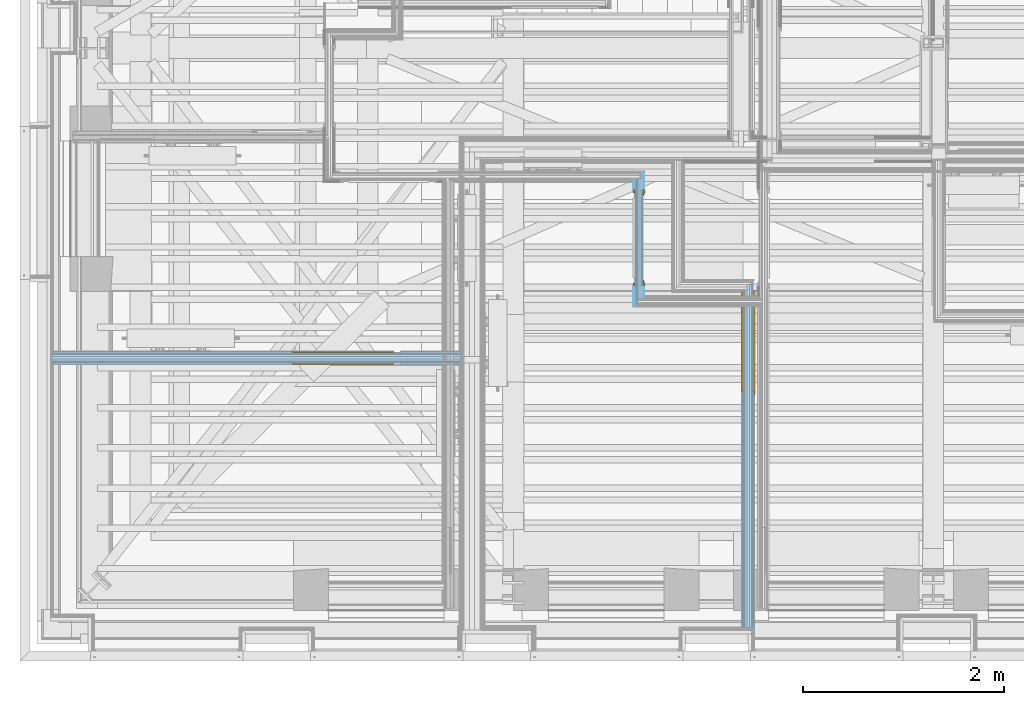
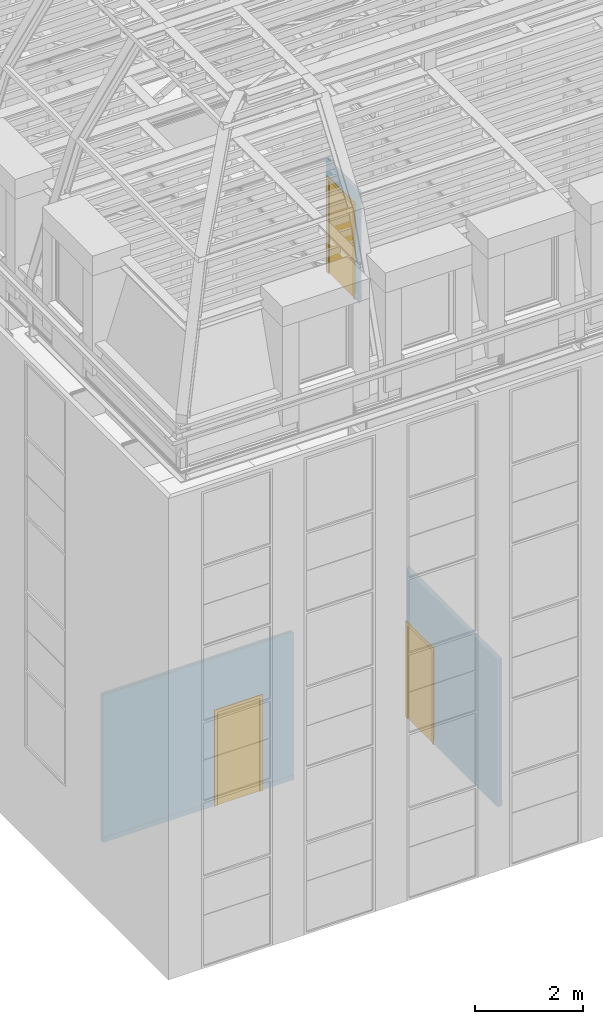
# One storey, part 100 of 183: 3 doors, 4 openings, 3 elements without a shape of their own, plus 21 elements that do not belong to this part.
"""IFC2X3 building model written with IfcOpenShell, lengths in metres."""

from ifc_helpers import new_model, entity, si_unit, converted_unit, derived_unit, money_unit, direction, frame, frame_2d, origin_with_axes, place, context, subcontext, project, spatial, polyline, rectangle, outline, extrude, faceted_brep, material, type_object, element, fill, aggregate, save


model = new_model("IFC2X3")

# Units and contexts
model_context = context("Model", 3, precision=1e-05, world=origin_with_axes(), true_north=direction((0.0, 1.0)))
body_context = subcontext(model_context, "Body", "Model", "MODEL_VIEW", scale=1.0)
ifc_project = project(units=[si_unit("LENGTHUNIT", "METRE"), si_unit("AREAUNIT", "SQUARE_METRE"), si_unit("VOLUMEUNIT", "CUBIC_METRE"), si_unit("ABSORBEDDOSEUNIT", "GRAY"), si_unit("AMOUNTOFSUBSTANCEUNIT", "MOLE"), si_unit("DOSEEQUIVALENTUNIT", "SIEVERT"), si_unit("ELECTRICCAPACITANCEUNIT", "FARAD"), si_unit("ELECTRICCHARGEUNIT", "COULOMB"), si_unit("ELECTRICCONDUCTANCEUNIT", "SIEMENS"), si_unit("ELECTRICCURRENTUNIT", "AMPERE"), si_unit("ELECTRICRESISTANCEUNIT", "OHM"), si_unit("ELECTRICVOLTAGEUNIT", "VOLT"), si_unit("ENERGYUNIT", "JOULE"), si_unit("FORCEUNIT", "NEWTON"), si_unit("FREQUENCYUNIT", "HERTZ"), si_unit("ILLUMINANCEUNIT", "LUX"), si_unit("INDUCTANCEUNIT", "HENRY"), si_unit("LUMINOUSFLUXUNIT", "LUMEN"), si_unit("LUMINOUSINTENSITYUNIT", "CANDELA"), si_unit("MAGNETICFLUXDENSITYUNIT", "TESLA"), si_unit("MAGNETICFLUXUNIT", "WEBER"), si_unit("MASSUNIT", "GRAM"), converted_unit("PLANEANGLEUNIT", "degree", entity("IfcReal", 0.0174532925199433), si_unit("PLANEANGLEUNIT", "RADIAN"), dimensions=[0, 0, 0, 0, 0, 0, 0]), si_unit("POWERUNIT", "WATT"), si_unit("PRESSUREUNIT", "PASCAL"), si_unit("RADIOACTIVITYUNIT", "BECQUEREL"), si_unit("SOLIDANGLEUNIT", "STERADIAN"), si_unit("THERMODYNAMICTEMPERATUREUNIT", "KELVIN"), si_unit("TIMEUNIT", "SECOND"), derived_unit("ACCELERATIONUNIT", [(si_unit("LENGTHUNIT", "METRE"), 1), (si_unit("TIMEUNIT", "SECOND"), -2)]), derived_unit("ANGULARVELOCITYUNIT", [(converted_unit("PLANEANGLEUNIT", "degree", entity("IfcReal", 0.0174532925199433), si_unit("PLANEANGLEUNIT", "RADIAN"), dimensions=[0, 0, 0, 0, 0, 0, 0]), 1), (si_unit("TIMEUNIT", "SECOND"), -1)]), derived_unit("CURVATUREUNIT", [(converted_unit("PLANEANGLEUNIT", "degree", entity("IfcReal", 0.0174532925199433), si_unit("PLANEANGLEUNIT", "RADIAN"), dimensions=[0, 0, 0, 0, 0, 0, 0]), 1), (si_unit("LENGTHUNIT", "METRE"), -1)]), derived_unit("DYNAMICVISCOSITYUNIT", [(si_unit("PRESSUREUNIT", "PASCAL"), 1), (si_unit("TIMEUNIT", "SECOND"), 1)]), derived_unit("HEATFLUXDENSITYUNIT", [(si_unit("POWERUNIT", "WATT"), 1), (si_unit("LENGTHUNIT", "METRE"), -2)]), derived_unit("HEATINGVALUEUNIT", [(si_unit("ENERGYUNIT", "JOULE"), 1), (si_unit("MASSUNIT", "GRAM"), -1)]), derived_unit("INTEGERCOUNTRATEUNIT", [(si_unit("TIMEUNIT", "SECOND"), -1)]), derived_unit("IONCONCENTRATIONUNIT", [(si_unit("MASSUNIT", "GRAM"), 1), (si_unit("VOLUMEUNIT", "CUBIC_METRE"), -1)]), derived_unit("ISOTHERMALMOISTURECAPACITYUNIT", [(si_unit("VOLUMEUNIT", "CUBIC_METRE"), 1), (si_unit("MASSUNIT", "GRAM"), -1)]), derived_unit("KINEMATICVISCOSITYUNIT", [(si_unit("AREAUNIT", "SQUARE_METRE"), 1), (si_unit("TIMEUNIT", "SECOND"), -1)]), derived_unit("LINEARFORCEUNIT", [(si_unit("FORCEUNIT", "NEWTON"), 1), (si_unit("LENGTHUNIT", "METRE"), -1)]), derived_unit("LINEARMOMENTUNIT", [(si_unit("FORCEUNIT", "NEWTON"), 1), (si_unit("LENGTHUNIT", "METRE"), -1)]), derived_unit("LINEARSTIFFNESSUNIT", [(si_unit("FORCEUNIT", "NEWTON"), 1), (si_unit("LENGTHUNIT", "METRE"), -1)]), derived_unit("LINEARVELOCITYUNIT", [(si_unit("LENGTHUNIT", "METRE"), 1), (si_unit("TIMEUNIT", "SECOND"), -1)]), derived_unit("LUMINOUSINTENSITYDISTRIBUTIONUNIT", [(si_unit("LUMINOUSINTENSITYUNIT", "CANDELA"), 1), (si_unit("LUMINOUSFLUXUNIT", "LUMEN"), -1)]), derived_unit("MASSDENSITYUNIT", [(si_unit("MASSUNIT", "GRAM"), 1), (si_unit("VOLUMEUNIT", "CUBIC_METRE"), -1)]), derived_unit("MASSFLOWRATEUNIT", [(si_unit("MASSUNIT", "GRAM"), 1), (si_unit("TIMEUNIT", "SECOND"), -1)]), derived_unit("MASSPERLENGTHUNIT", [(si_unit("MASSUNIT", "GRAM"), 1), (si_unit("LENGTHUNIT", "METRE"), -1)]), derived_unit("MODULUSOFELASTICITYUNIT", [(si_unit("FORCEUNIT", "NEWTON"), 1), (si_unit("AREAUNIT", "SQUARE_METRE"), -1)]), derived_unit("MODULUSOFLINEARSUBGRADEREACTIONUNIT", [(si_unit("FORCEUNIT", "NEWTON"), 1), (si_unit("LENGTHUNIT", "METRE"), -2)]), derived_unit("MODULUSOFROTATIONALSUBGRADEREACTIONUNIT", [(si_unit("FORCEUNIT", "NEWTON"), 1), (si_unit("LENGTHUNIT", "METRE"), 1)]), derived_unit("MODULUSOFSUBGRADEREACTIONUNIT", [(si_unit("FORCEUNIT", "NEWTON"), 1), (si_unit("VOLUMEUNIT", "CUBIC_METRE"), -1)]), derived_unit("MOISTUREDIFFUSIVITYUNIT", [(si_unit("VOLUMEUNIT", "CUBIC_METRE"), 1), (si_unit("TIMEUNIT", "SECOND"), -1)]), derived_unit("MOLECULARWEIGHTUNIT", [(si_unit("MASSUNIT", "GRAM"), 1), (si_unit("AMOUNTOFSUBSTANCEUNIT", "MOLE"), -1)]), derived_unit("PLANARFORCEUNIT", [(si_unit("FORCEUNIT", "NEWTON"), 1), (si_unit("LENGTHUNIT", "METRE"), -2)]), derived_unit("ROTATIONALFREQUENCYUNIT", [(si_unit("TIMEUNIT", "SECOND"), -1)]), derived_unit("ROTATIONALMASSUNIT", [(si_unit("MASSUNIT", "GRAM"), 1), (si_unit("LENGTHUNIT", "METRE"), 2)]), derived_unit("ROTATIONALSTIFFNESSUNIT", [(si_unit("FORCEUNIT", "NEWTON"), 1), (si_unit("LENGTHUNIT", "METRE"), 1), (converted_unit("PLANEANGLEUNIT", "degree", entity("IfcReal", 0.0174532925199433), si_unit("PLANEANGLEUNIT", "RADIAN"), dimensions=[0, 0, 0, 0, 0, 0, 0]), -1)]), derived_unit("SECTIONAREAINTEGRALUNIT", [(si_unit("LENGTHUNIT", "METRE"), 5)]), derived_unit("SECTIONMODULUSUNIT", [(si_unit("LENGTHUNIT", "METRE"), 3)]), derived_unit("SHEARMODULUSUNIT", [(si_unit("FORCEUNIT", "NEWTON"), 1), (si_unit("AREAUNIT", "SQUARE_METRE"), -1)]), derived_unit("SOUNDPOWERUNIT", [(si_unit("ENERGYUNIT", "JOULE"), 1), (si_unit("TIMEUNIT", "SECOND"), -1)]), derived_unit("SPECIFICHEATCAPACITYUNIT", [(si_unit("FORCEUNIT", "NEWTON"), 1), (si_unit("MASSUNIT", "GRAM"), -1), (si_unit("THERMODYNAMICTEMPERATUREUNIT", "KELVIN"), -1)]), derived_unit("TEMPERATUREGRADIENTUNIT", [(si_unit("THERMODYNAMICTEMPERATUREUNIT", "KELVIN"), 1), (si_unit("LENGTHUNIT", "METRE"), -1)]), derived_unit("THERMALADMITTANCEUNIT", [(si_unit("POWERUNIT", "WATT"), 1), (si_unit("AREAUNIT", "SQUARE_METRE"), -1), (si_unit("THERMODYNAMICTEMPERATUREUNIT", "KELVIN"), -1)]), derived_unit("THERMALCONDUCTANCEUNIT", [(si_unit("POWERUNIT", "WATT"), 1), (si_unit("LENGTHUNIT", "METRE"), -1), (si_unit("THERMODYNAMICTEMPERATUREUNIT", "KELVIN"), -1)]), derived_unit("THERMALEXPANSIONCOEFFICIENTUNIT", [(si_unit("THERMODYNAMICTEMPERATUREUNIT", "KELVIN"), -1)]), derived_unit("THERMALRESISTANCEUNIT", [(si_unit("AREAUNIT", "SQUARE_METRE"), 1), (si_unit("POWERUNIT", "WATT"), -1)]), derived_unit("THERMALTRANSMITTANCEUNIT", [(si_unit("POWERUNIT", "WATT"), 1), (si_unit("AREAUNIT", "SQUARE_METRE"), -1), (si_unit("THERMODYNAMICTEMPERATUREUNIT", "KELVIN"), -1)]), derived_unit("TORQUEUNIT", [(si_unit("FORCEUNIT", "NEWTON"), 1), (si_unit("LENGTHUNIT", "METRE"), 1)]), derived_unit("VAPORPERMEABILITYUNIT", [(si_unit("MASSUNIT", "GRAM"), 1), (si_unit("TIMEUNIT", "SECOND"), -1)]), derived_unit("VOLUMETRICFLOWRATEUNIT", [(si_unit("VOLUMEUNIT", "CUBIC_METRE"), 1), (si_unit("TIMEUNIT", "SECOND"), -1)]), derived_unit("WARPINGCONSTANTUNIT", [(si_unit("LENGTHUNIT", "METRE"), 6)]), derived_unit("WARPINGMOMENTUNIT", [(si_unit("FORCEUNIT", "NEWTON"), 1), (si_unit("LENGTHUNIT", "METRE"), 2)]), money_unit("GBP")], contexts=[model_context])

# Site, building, storey, space
site_placement = place(None, origin_with_axes())
site = spatial("IfcSite", under=ifc_project, at=site_placement, Name="Site", CompositionType="ELEMENT")
building_placement = place(site_placement, origin_with_axes())
building = spatial("IfcBuilding", under=site, at=building_placement, Name="Building01", CompositionType="ELEMENT")
storey_placement = place(building_placement, frame((0.0, 0.0, 5.15), z_axis=(0.0, 0.0, 1.0), x_axis=(1.0, 0.0, 0.0)))
storey = spatial("IfcBuildingStorey", under=building, at=storey_placement, Name="1F", CompositionType="ELEMENT", Elevation=5.15)
space_1_placement = place(storey_placement, frame((12.175, 4.189428, 9.81), z_axis=(0.0, 0.0, 1.0), x_axis=(0.0, 1.0, 0.0)))
space_1 = spatial("IfcSpace", under=storey, at=space_1_placement, Name="25", CompositionType="ELEMENT", InteriorOrExteriorSpace="NOTDEFINED")

# Door
ifc_material_1 = material(Name="A_BSUK_Doors")
door_style_1 = type_object("IfcDoorStyle", Name="A-Doors-SingleFlush", ConstructionType="USERDEFINED", OperationType="SINGLE_SWING_RIGHT", ParameterTakesPrecedence=False, Sizeable=False)
wall_3_placement = place(storey_placement, frame((6.147098, 4.806939, 9.78), z_axis=(0.0, 0.0, 1.0), x_axis=(0.0, -1.0, 0.0)))
opening_4_placement = place(wall_3_placement, frame((0.105, -0.042, 0.0), z_axis=(0.0, 0.0, 1.0), x_axis=(1.0, 0.0, 0.0)))
door_1_placement = place(opening_4_placement, frame((0.942, 0.015, 0.0), z_axis=(0.0, 0.0, 1.0), x_axis=(-1.0, 0.0, 0.0)))
door_1 = element("IfcDoor", 1, at=door_1_placement, inside=space_1, type_object=door_style_1, material=ifc_material_1, Name="4.21", ObjectType="A-Doors-SingleFlush", OverallHeight=2.14200000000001, OverallWidth=0.984000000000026, context=body_context, shape_type="Brep", body=[
    faceted_brep([(0.9, -0.099, 0.0), (0.969, -0.099, 0.0), (0.969, -0.099, 2.169), (-0.069, -0.099, 2.169), (-0.069, -0.099, 0.0), (0.0, -0.099, 0.0), (0.0, -0.099, 2.1), (0.9, -0.099, 2.1), (-0.069, -0.08, 0.0), (-0.069, -0.08, 2.169), (0.969, -0.08, 2.169), (0.969, -0.08, 0.0), (0.9, 0.019, 0.0), (0.969, 0.019, 0.0), (0.969, 0.0, 0.0), (0.942, 0.0, 0.0), (0.942, -0.08, 0.0), (0.9, 0.019, 2.1), (0.0, 0.019, 2.1), (0.0, 0.019, 0.0), (-0.069, 0.019, 0.0), (-0.069, 0.019, 2.169), (0.969, 0.019, 2.169), (0.969, 0.0, 2.169), (0.942, -0.08, 2.142), (0.942, 0.0, 2.142), (-0.042, -0.08, 2.142), (-0.042, 0.0, 2.142), (-0.042, -0.08, 0.0), (-0.042, 0.0, 0.0), (-0.069, 0.0, 2.169), (-0.069, 0.0, 0.0)], [[[0, 1, 2, 3, 4, 5, 6, 7]], [[8, 4, 3, 9]], [[10, 2, 1, 11]], [[9, 3, 2, 10]], [[12, 13, 14, 15, 16, 11, 1, 0]], [[7, 17, 12, 0]], [[6, 18, 17, 7]], [[18, 19, 20, 21, 22, 13, 12, 17]], [[5, 19, 18, 6]], [[13, 22, 23, 14]], [[24, 16, 15, 25]], [[26, 24, 25, 27]], [[11, 16, 24, 26, 28, 8, 9, 10]], [[27, 29, 28, 26]], [[25, 15, 14, 23, 30, 31, 29, 27]], [[5, 4, 8, 28, 29, 31, 20, 19]], [[30, 21, 20, 31]], [[23, 22, 21, 30]]]),
    faceted_brep([(0.0, -0.09, 2.1), (0.0, -0.04, 2.1), (0.0, -0.04, 0.0), (0.0, -0.09, 0.0), (0.875, -0.09, 0.0), (0.9, -0.09, 0.0), (0.9, -0.09, 2.1), (0.025, -0.09, 0.0), (0.025, -0.09, 2.075), (0.875, -0.09, 2.075), (0.875, -0.04, 0.0), (0.9, -0.04, 0.0), (0.9, -0.04, 2.1), (0.025, -0.04, 2.075), (0.025, -0.04, 0.0), (0.875, -0.04, 2.075)], [[[0, 1, 2, 3]], [[4, 5, 6, 0, 3, 7, 8, 9]], [[10, 11, 5, 4]], [[6, 12, 1, 0]], [[5, 11, 12, 6]], [[13, 14, 2, 1, 12, 11, 10, 15]], [[7, 14, 13, 8]], [[7, 3, 2, 14]], [[9, 15, 10, 4]], [[8, 13, 15, 9]]]),
    faceted_brep([(0.9, -0.04, 0.0), (0.9, 0.0, 0.0), (0.9, 0.0, 2.1), (0.9, -0.04, 2.1), (0.0, -0.04, 2.1), (0.0, 0.0, 2.1), (0.0, 0.0, 0.0), (0.0, -0.04, 0.0)], [[[0, 1, 2, 3]], [[4, 5, 6, 7]], [[7, 6, 1, 0]], [[3, 4, 7, 0]], [[3, 2, 5, 4]], [[1, 6, 5, 2]]]),
])

# Space
space_2_placement = place(storey_placement, frame((0.318, 8.21067, 0.017975), z_axis=(0.0, 0.0, 1.0), x_axis=(0.0, -1.0, 0.0)))
space_2 = spatial("IfcSpace", under=storey, at=space_2_placement, Name="06", CompositionType="ELEMENT", InteriorOrExteriorSpace="NOTDEFINED")

# Door
door_style_2 = type_object("IfcDoorStyle", Name="A-Doors-SingleFlush", ConstructionType="USERDEFINED", OperationType="SINGLE_SWING_LEFT", ParameterTakesPrecedence=False, Sizeable=False)
wall_2_placement = place(storey_placement, frame((0.318, 3.030286, 0.0), z_axis=(0.0, 0.0, 1.0), x_axis=(1.0, 0.0, 0.0)))
opening_3_placement = place(wall_2_placement, frame((2.391, -0.075, -0.03), z_axis=(0.0, 0.0, 1.0), x_axis=(1.0, 0.0, 0.0)))
door_2_placement = place(opening_3_placement, frame((0.942, 0.015, 0.03), z_axis=(0.0, 0.0, 1.0), x_axis=(-1.0, 0.0, 0.0)))
door_2 = element("IfcDoor", 2, at=door_2_placement, inside=space_2, type_object=door_style_2, material=ifc_material_1, Name="1.19", ObjectType="A-Doors-SingleFlush", OverallHeight=2.17200000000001, OverallWidth=1.08300000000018, context=body_context, shape_type="Brep", body=[
    faceted_brep([(0.0, -0.114, 2.1), (0.9, -0.114, 2.1), (0.9, -0.114, 0.0), (0.969, -0.114, 0.0), (0.969, -0.114, 2.169), (-0.069, -0.114, 2.169), (-0.069, -0.114, 0.0), (0.0, -0.114, 0.0), (0.969, -0.095, 2.169), (0.969, -0.095, 0.0), (-0.069, -0.095, 0.0), (-0.069, -0.095, 2.169), (-0.042, -0.095, 0.0), (-0.042, 0.0, 0.0), (-0.069, 0.0, 0.0), (-0.069, 0.019, 0.0), (0.0, 0.019, 0.0), (0.0, 0.019, 2.1), (0.9, 0.019, 2.1), (-0.069, 0.019, 2.169), (0.969, 0.019, 2.169), (0.969, 0.019, 0.0), (0.9, 0.019, 0.0), (-0.069, 0.0, 2.169), (-0.042, 0.0, 2.142), (-0.042, -0.095, 2.142), (0.942, 0.0, 2.142), (0.942, -0.095, 2.142), (0.942, -0.095, 0.0), (0.942, 0.0, 0.0), (0.969, 0.0, 0.0), (0.969, 0.0, 2.169)], [[[0, 1, 2, 3, 4, 5, 6, 7]], [[8, 4, 3, 9]], [[10, 6, 5, 11]], [[11, 5, 4, 8]], [[7, 6, 10, 12, 13, 14, 15, 16]], [[7, 16, 17, 0]], [[0, 17, 18, 1]], [[17, 16, 15, 19, 20, 21, 22, 18]], [[1, 18, 22, 2]], [[14, 23, 19, 15]], [[24, 13, 12, 25]], [[26, 24, 25, 27]], [[11, 8, 9, 28, 27, 25, 12, 10]], [[27, 28, 29, 26]], [[26, 29, 30, 31, 23, 14, 13, 24]], [[22, 21, 30, 29, 28, 9, 3, 2]], [[30, 21, 20, 31]], [[31, 20, 19, 23]]]),
    faceted_brep([(0.9, -0.09, 0.0), (0.9, -0.04, 0.0), (0.9, -0.04, 2.1), (0.9, -0.09, 2.1), (0.025, -0.09, 2.075), (0.875, -0.09, 2.075), (0.875, -0.09, 0.0), (0.0, -0.09, 2.1), (0.0, -0.09, 0.0), (0.025, -0.09, 0.0), (0.0, -0.04, 0.0), (0.025, -0.04, 0.0), (0.0, -0.04, 2.1), (0.025, -0.04, 2.075), (0.875, -0.04, 0.0), (0.875, -0.04, 2.075)], [[[0, 1, 2, 3]], [[4, 5, 6, 0, 3, 7, 8, 9]], [[9, 8, 10, 11]], [[3, 2, 12, 7]], [[7, 12, 10, 8]], [[13, 11, 10, 12, 2, 1, 14, 15]], [[5, 15, 14, 6]], [[14, 1, 0, 6]], [[9, 11, 13, 4]], [[4, 13, 15, 5]]]),
    faceted_brep([(0.0, -0.04, 2.1), (0.0, 0.0, 2.1), (0.0, 0.0, 0.0), (0.0, -0.04, 0.0), (0.9, -0.04, 0.0), (0.9, 0.0, 0.0), (0.9, 0.0, 2.1), (0.9, -0.04, 2.1)], [[[0, 1, 2, 3]], [[4, 5, 6, 7]], [[3, 2, 5, 4]], [[3, 4, 7, 0]], [[7, 6, 1, 0]], [[1, 6, 5, 2]]]),
])

# Space
space_3_placement = place(storey_placement, frame((12.15, 4.98, 0.017975), z_axis=(0.0, 0.0, 1.0), x_axis=(-1.0, 0.0, 0.0)))
space_3 = spatial("IfcSpace", under=storey, at=space_3_placement, Name="05", CompositionType="ELEMENT", InteriorOrExteriorSpace="NOTDEFINED")

# Door
door_style_3 = type_object("IfcDoorStyle", Name="A-Doors-SingleFlush", ConstructionType="USERDEFINED", OperationType="SINGLE_SWING_RIGHT", ParameterTakesPrecedence=False, Sizeable=False)
wall_1_placement = place(storey_placement, frame((7.26, 3.745, 0.0), z_axis=(0.0, 0.0, 1.0), x_axis=(0.0, -1.0, 0.0)))
opening_1_placement = place(wall_1_placement, frame((0.129, -0.075, -0.015), z_axis=(0.0, 0.0, 1.0), x_axis=(1.0, 0.0, 0.0)))
door_3_placement = place(opening_1_placement, frame((0.9, 0.015, 0.015), z_axis=(0.0, 0.0, 1.0), x_axis=(-1.0, 0.0, 0.0)))
door_3 = element("IfcDoor", 3, at=door_3_placement, inside=space_3, type_object=door_style_3, material=ifc_material_1, Name="1.16", ObjectType="A-Doors-SingleFlush", OverallHeight=2.157, OverallWidth=1.56178056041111, context=body_context, shape_type="Brep", body=[
    faceted_brep([(0.9, -0.114, 0.0), (0.969, -0.114, 0.0), (0.969, -0.114, 2.169), (-0.069, -0.114, 2.169), (-0.069, -0.114, 0.0), (0.0, -0.114, 0.0), (0.0, -0.114, 2.1), (0.9, -0.114, 2.1), (-0.069, -0.095, 0.0), (-0.069, -0.095, 2.169), (0.969, -0.095, 2.169), (0.969, -0.095, 0.0), (0.9, 0.019, 0.0), (0.969, 0.019, 0.0), (0.969, 0.0, 0.0), (0.942, 0.0, 0.0), (0.942, -0.095, 0.0), (0.9, 0.019, 2.1), (0.0, 0.019, 2.1), (0.0, 0.019, 0.0), (-0.069, 0.019, 0.0), (-0.069, 0.019, 2.169), (0.969, 0.019, 2.169), (0.969, 0.0, 2.169), (0.942, -0.095, 2.142), (0.942, 0.0, 2.142), (-0.042, -0.095, 2.142), (-0.042, 0.0, 2.142), (-0.042, -0.095, 0.0), (-0.042, 0.0, 0.0), (-0.069, 0.0, 2.169), (-0.069, 0.0, 0.0)], [[[0, 1, 2, 3, 4, 5, 6, 7]], [[8, 4, 3, 9]], [[10, 2, 1, 11]], [[9, 3, 2, 10]], [[12, 13, 14, 15, 16, 11, 1, 0]], [[7, 17, 12, 0]], [[6, 18, 17, 7]], [[18, 19, 20, 21, 22, 13, 12, 17]], [[5, 19, 18, 6]], [[13, 22, 23, 14]], [[24, 16, 15, 25]], [[26, 24, 25, 27]], [[11, 16, 24, 26, 28, 8, 9, 10]], [[27, 29, 28, 26]], [[25, 15, 14, 23, 30, 31, 29, 27]], [[5, 4, 8, 28, 29, 31, 20, 19]], [[30, 21, 20, 31]], [[23, 22, 21, 30]]]),
    faceted_brep([(0.0, -0.09, 2.1), (0.0, -0.04, 2.1), (0.0, -0.04, 0.0), (0.0, -0.09, 0.0), (0.875, -0.09, 0.0), (0.9, -0.09, 0.0), (0.9, -0.09, 2.1), (0.025, -0.09, 0.0), (0.025, -0.09, 2.075), (0.875, -0.09, 2.075), (0.875, -0.04, 0.0), (0.9, -0.04, 0.0), (0.9, -0.04, 2.1), (0.025, -0.04, 2.075), (0.025, -0.04, 0.0), (0.875, -0.04, 2.075)], [[[0, 1, 2, 3]], [[4, 5, 6, 0, 3, 7, 8, 9]], [[10, 11, 5, 4]], [[6, 12, 1, 0]], [[5, 11, 12, 6]], [[13, 14, 2, 1, 12, 11, 10, 15]], [[7, 14, 13, 8]], [[7, 3, 2, 14]], [[9, 15, 10, 4]], [[8, 13, 15, 9]]]),
    faceted_brep([(0.9, -0.04, 0.0), (0.9, 0.0, 0.0), (0.9, 0.0, 2.1), (0.9, -0.04, 2.1), (0.0, -0.04, 2.1), (0.0, 0.0, 2.1), (0.0, 0.0, 0.0), (0.0, -0.04, 0.0)], [[[0, 1, 2, 3]], [[4, 5, 6, 7]], [[7, 6, 1, 0]], [[3, 4, 7, 0]], [[3, 2, 5, 4]], [[1, 6, 5, 2]]]),
])

# Wall, opening
wall_type_1 = type_object("IfcWallType", Name="SHE_A-Walls_Type05a_Partition_95mm_tall", PredefinedType="NOTDEFINED")
wall_1 = element("IfcWall", 4, at=wall_1_placement, inside=storey, type_object=wall_type_1, Name="5A", ObjectType="SHE_A-Walls_Type05a_Partition_95mm_tall")
opening_1 = element("IfcOpeningElement", 5, at=opening_1_placement, cuts=wall_1, Name="Opening", ObjectType="Opening", context=body_context, shape_type="SweptSolid", body=[
    extrude(outline(polyline([(0.0, 2.142), (-0.9, 2.142), (-0.9, 0.015), (-0.464219, 0.015), (-0.464219, 0.0), (0.0, 0.0), (0.0, 2.142)])), frame((0.0, 0.0, 0.0), z_axis=(0.0, 1.0, 0.0), x_axis=(-1.0, 0.0, 0.0)), (0.0, 0.0, 1.0), 0.125),
    extrude(outline(polyline([(0.619781, 2.157), (-0.942, 2.157), (-0.942, 0.015), (-0.464219, 0.015), (-0.464219, 0.0), (0.619781, 0.0), (0.619781, 2.157)])), frame((0.0, 0.015, 0.0), z_axis=(0.0, 1.0, 0.0), x_axis=(-1.0, 0.0, 0.0)), (0.0, 0.0, 1.0), 0.012),
    extrude(outline(polyline([(0.619781, 2.157), (-0.942, 2.157), (-0.942, 0.015), (-0.464219, 0.015), (-0.464219, 0.0), (0.619781, 0.0), (0.619781, 2.157)])), frame((0.0, 0.027, 0.0), z_axis=(0.0, 1.0, 0.0), x_axis=(-1.0, 0.0, 0.0)), (0.0, 0.0, 1.0), 0.023),
    extrude(outline(polyline([(0.619781, 2.157), (-0.942, 2.157), (-0.942, 0.015), (-0.464219, 0.015), (-0.464219, 0.0), (0.619781, 0.0), (0.619781, 2.157)])), frame((0.0, 0.05, 0.0), z_axis=(0.0, 1.0, 0.0), x_axis=(-1.0, 0.0, 0.0)), (0.0, 0.0, 1.0), 0.025),
    extrude(outline(polyline([(0.619781, 2.157), (-0.942, 2.157), (-0.942, 0.015), (-0.464219, 0.015), (-0.464219, 0.0), (0.619781, 0.0), (0.619781, 2.157)])), frame((0.0, 0.075, 0.0), z_axis=(0.0, 1.0, 0.0), x_axis=(-1.0, 0.0, 0.0)), (0.0, 0.0, 1.0), 0.023),
    extrude(rectangle(XDim=0.9, YDim=2.142, at=frame_2d((-0.45, 1.071), x_axis=(-1.0, 0.0))), frame((0.0, 0.098, 0.0), z_axis=(0.0, 1.0, 0.0), x_axis=(-1.0, 0.0, 0.0)), (0.0, 0.0, 1.0), 0.012),
    extrude(outline(polyline([(0.042, 2.142), (0.042, 2.157), (-0.942, 2.157), (-0.942, 0.015), (-0.464219, 0.015), (-0.464219, 0.0), (0.619781, 0.0), (0.619781, 2.142), (0.042, 2.142)])), frame((0.0, 0.0, 0.0), z_axis=(0.0, 1.0, 0.0), x_axis=(-1.0, 0.0, 0.0)), (0.0, 0.0, 1.0), 0.098),
    extrude(outline(polyline([(0.042, 2.142), (0.042, 2.157), (-0.942, 2.157), (-0.942, 0.015), (-0.464219, 0.015), (-0.464219, 0.0), (0.619781, 0.0), (0.619781, 2.142), (0.042, 2.142)])), frame((0.0, 0.11, 0.0), z_axis=(0.0, 1.0, 0.0), x_axis=(-1.0, 0.0, 0.0)), (0.0, 0.0, 1.0), 0.015),
])

fill(opening_1, door_3)

# Opening
opening_2_placement = place(wall_1_placement, frame((0.087, 0.023, 0.0), z_axis=(0.0, 0.0, 1.0), x_axis=(1.0, 0.0, 0.0)))
element("IfcOpeningElement", 6, at=opening_2_placement, cuts=wall_1, Name="Opening", ObjectType="Recess", context=body_context, shape_type="SweptSolid", body=[
    extrude(rectangle(XDim=2.142, YDim=0.984, at=frame_2d((-0.492, 1.071), x_axis=(0.0, 1.0))), frame((0.0, 0.0, 0.0), z_axis=(0.0, 1.0, 0.0), x_axis=(-1.0, 0.0, 0.0)), (0.0, 0.0, 1.0), 0.012),
])

# Building element part
ifc_material_2 = material(Name="A_BSUK_Walls_Timber")
placement_1 = place(wall_1_placement, origin_with_axes())
building_element_part_1 = element("IfcBuildingElementPart", 7, at=placement_1, material=ifc_material_2, Name="1", context=body_context, shape_type="SweptSolid", body=[
    extrude(outline(polyline([(3.427, -0.06), (0.06, -0.06), (0.075, -0.075), (3.427, -0.075), (3.427, -0.06)])), frame((0.0, 0.0, 0.015), z_axis=(0.0, 0.0, 1.0), x_axis=(1.0, 0.0, 0.0)), (0.0, 0.0, 1.0), 0.1),
])

ifc_material_3 = material(Name="A_BSUK_WallInternal_Finishes_Plasterboard")
building_element_part_2 = element("IfcBuildingElementPart", 8, at=placement_1, material=ifc_material_3, Name="2", context=body_context, shape_type="SweptSolid", body=[
    extrude(outline(polyline([(3.427, -0.048), (0.048, -0.048), (0.06, -0.06), (3.427, -0.06), (3.427, -0.048)])), origin_with_axes(), (0.0, 0.0, 1.0), 3.32),
])

ifc_material_4 = material(Name="Air Cavity")
building_element_part_3 = element("IfcBuildingElementPart", 9, at=placement_1, material=ifc_material_4, Name="3", context=body_context, shape_type="SweptSolid", body=[
    extrude(outline(polyline([(3.427, -0.025), (0.025, -0.025), (0.048, -0.048), (3.427, -0.048), (3.427, -0.025)])), origin_with_axes(), (0.0, 0.0, 1.0), 3.32),
])

ifc_material_5 = material(Name="A_BSUK_Insulation")
building_element_part_4 = element("IfcBuildingElementPart", 10, at=placement_1, material=ifc_material_5, Name="4", context=body_context, shape_type="SweptSolid", body=[
    extrude(rectangle(XDim=3.427, YDim=0.025, at=frame_2d((1.7135, -0.0125), x_axis=(-1.0, 0.0))), origin_with_axes(), (0.0, 0.0, 1.0), 3.32),
])

building_element_part_5 = element("IfcBuildingElementPart", 11, at=placement_1, material=ifc_material_4, Name="5", context=body_context, shape_type="SweptSolid", body=[
    extrude(rectangle(XDim=3.427, YDim=0.023, at=frame_2d((1.7135, 0.0115), x_axis=(-1.0, 0.0))), origin_with_axes(), (0.0, 0.0, 1.0), 3.32),
])

building_element_part_6 = element("IfcBuildingElementPart", 12, at=placement_1, material=ifc_material_3, Name="6", context=body_context, shape_type="SweptSolid", body=[
    extrude(outline(polyline([(3.427, 0.035), (-0.035, 0.035), (-0.023, 0.023), (3.427, 0.023), (3.427, 0.035)])), origin_with_axes(), (0.0, 0.0, 1.0), 3.32),
])

building_element_part_7 = element("IfcBuildingElementPart", 13, at=placement_1, material=ifc_material_2, Name="7", context=body_context, shape_type="SweptSolid", body=[
    extrude(outline(polyline([(3.412, 0.05), (-0.05, 0.05), (-0.035, 0.035), (3.412, 0.035), (3.412, 0.05)])), frame((0.0, 0.0, 0.015), z_axis=(0.0, 0.0, 1.0), x_axis=(1.0, 0.0, 0.0)), (0.0, 0.0, 1.0), 0.1),
])

aggregate(wall_1, [building_element_part_1, building_element_part_2, building_element_part_3, building_element_part_4, building_element_part_5, building_element_part_6, building_element_part_7])

# Wall, opening
wall_2 = element("IfcWall", 14, at=wall_2_placement, inside=storey, type_object=wall_type_1, Name="5A", ObjectType="SHE_A-Walls_Type05a_Partition_95mm_tall")
opening_3 = element("IfcOpeningElement", 15, at=opening_3_placement, cuts=wall_2, Name="Opening", ObjectType="Opening", context=body_context, shape_type="SweptSolid", body=[
    extrude(outline(polyline([(-0.984, 0.0), (-0.099, 0.0), (-0.099, 0.03), (0.0, 0.03), (0.0, 2.172), (-0.984, 2.172), (-0.984, 0.0)])), frame((0.0, 0.0, 0.0), z_axis=(0.0, 1.0, 0.0), x_axis=(-1.0, 0.0, 0.0)), (0.0, 0.0, 1.0), 0.125),
    extrude(rectangle(XDim=0.984, YDim=2.172, at=frame_2d((-0.492, 1.086), x_axis=(1.0, 0.0))), frame((0.0, 0.015, 0.0), z_axis=(0.0, 1.0, 0.0), x_axis=(-1.0, 0.0, 0.0)), (0.0, 0.0, 1.0), 0.012),
    extrude(outline(polyline([(-0.099, 0.03), (0.0, 0.03), (0.0, 2.172), (-0.984, 2.172), (-0.984, 2.142), (-1.083, 2.142), (-1.083, 0.0), (-0.099, 0.0), (-0.099, 0.03)])), frame((0.0, 0.0, 0.0), z_axis=(0.0, 1.0, 0.0), x_axis=(-1.0, 0.0, 0.0)), (0.0, 0.0, 1.0), 0.015),
    extrude(rectangle(XDim=0.984, YDim=2.172, at=frame_2d((-0.492, 1.086), x_axis=(1.0, 0.0))), frame((0.0, 0.027, 0.0), z_axis=(0.0, 1.0, 0.0), x_axis=(-1.0, 0.0, 0.0)), (0.0, 0.0, 1.0), 0.023),
    extrude(outline(polyline([(-0.984, 0.0), (-0.042, 0.0), (-0.042, 0.03), (0.0, 0.03), (0.0, 2.172), (-0.984, 2.172), (-0.984, 0.0)])), frame((0.0, 0.05, 0.0), z_axis=(0.0, 1.0, 0.0), x_axis=(-1.0, 0.0, 0.0)), (0.0, 0.0, 1.0), 0.025),
    extrude(outline(polyline([(-0.984, 0.0), (-0.042, 0.0), (-0.042, 0.03), (0.0, 0.03), (0.0, 2.172), (-0.984, 2.172), (-0.984, 0.0)])), frame((0.0, 0.075, 0.0), z_axis=(0.0, 1.0, 0.0), x_axis=(-1.0, 0.0, 0.0)), (0.0, 0.0, 1.0), 0.023),
    extrude(outline(polyline([(-0.984, 0.0), (-0.042, 0.0), (-0.042, 0.03), (0.0, 0.03), (0.0, 2.172), (-0.984, 2.172), (-0.984, 0.0)])), frame((0.0, 0.098, 0.0), z_axis=(0.0, 1.0, 0.0), x_axis=(-1.0, 0.0, 0.0)), (0.0, 0.0, 1.0), 0.012),
    extrude(outline(polyline([(-0.099, 0.03), (0.0, 0.03), (0.0, 2.172), (-0.984, 2.172), (-0.984, 2.142), (-1.083, 2.142), (-1.083, 0.0), (-0.099, 0.0), (-0.099, 0.03)])), frame((0.0, 0.11, 0.0), z_axis=(0.0, 1.0, 0.0), x_axis=(-1.0, 0.0, 0.0)), (0.0, 0.0, 1.0), 0.015),
])

fill(opening_3, door_2)

# Building element part
placement_2 = place(wall_2_placement, origin_with_axes())
building_element_part_8 = element("IfcBuildingElementPart", 16, at=placement_2, material=ifc_material_2, Name="1", context=body_context, shape_type="SweptSolid", body=[
    extrude(rectangle(XDim=4.037, YDim=0.015, at=frame_2d((2.0335, -0.0675), x_axis=(-1.0, 0.0))), frame((0.0, 0.0, 0.015), z_axis=(0.0, 0.0, 1.0), x_axis=(1.0, 0.0, 0.0)), (0.0, 0.0, 1.0), 0.1),
])

building_element_part_9 = element("IfcBuildingElementPart", 17, at=placement_2, material=ifc_material_3, Name="2", context=body_context, shape_type="SweptSolid", body=[
    extrude(rectangle(XDim=4.067, YDim=0.012, at=frame_2d((2.0335, -0.054), x_axis=(-1.0, 0.0))), origin_with_axes(), (0.0, 0.0, 1.0), 3.32),
])

building_element_part_10 = element("IfcBuildingElementPart", 18, at=placement_2, material=ifc_material_4, Name="3", context=body_context, shape_type="SweptSolid", body=[
    extrude(rectangle(XDim=4.067, YDim=0.023, at=frame_2d((2.0335, -0.0365), x_axis=(-1.0, 0.0))), origin_with_axes(), (0.0, 0.0, 1.0), 3.32),
])

building_element_part_11 = element("IfcBuildingElementPart", 19, at=placement_2, material=ifc_material_5, Name="4", context=body_context, shape_type="SweptSolid", body=[
    extrude(rectangle(XDim=4.067, YDim=0.025, at=frame_2d((2.0335, -0.0125), x_axis=(-1.0, 0.0))), origin_with_axes(), (0.0, 0.0, 1.0), 3.32),
])

building_element_part_12 = element("IfcBuildingElementPart", 20, at=placement_2, material=ifc_material_4, Name="5", context=body_context, shape_type="SweptSolid", body=[
    extrude(rectangle(XDim=4.067, YDim=0.023, at=frame_2d((2.0335, 0.0115), x_axis=(-1.0, 0.0))), origin_with_axes(), (0.0, 0.0, 1.0), 3.32),
])

building_element_part_13 = element("IfcBuildingElementPart", 21, at=placement_2, material=ifc_material_3, Name="6", context=body_context, shape_type="SweptSolid", body=[
    extrude(rectangle(XDim=4.067, YDim=0.012, at=frame_2d((2.0335, 0.029), x_axis=(-1.0, 0.0))), origin_with_axes(), (0.0, 0.0, 1.0), 3.32),
])

building_element_part_14 = element("IfcBuildingElementPart", 22, at=placement_2, material=ifc_material_2, Name="7", context=body_context, shape_type="SweptSolid", body=[
    extrude(rectangle(XDim=4.052, YDim=0.015, at=frame_2d((2.041, 0.0425), x_axis=(-1.0, 0.0))), frame((0.0, 0.0, 0.015), z_axis=(0.0, 0.0, 1.0), x_axis=(1.0, 0.0, 0.0)), (0.0, 0.0, 1.0), 0.1),
])

aggregate(wall_2, [building_element_part_8, building_element_part_9, building_element_part_10, building_element_part_11, building_element_part_12, building_element_part_13, building_element_part_14])

# Wall, opening
wall_type_2 = type_object("IfcWallType", Name="SHE_A-Walls_Type05b_Partition_80mm", PredefinedType="NOTDEFINED")
wall_3 = element("IfcWall", 23, at=wall_3_placement, inside=storey, type_object=wall_type_2, Name="5B", ObjectType="SHE_A-Walls_Type05b_Partition_80mm")
opening_4 = element("IfcOpeningElement", 24, at=opening_4_placement, cuts=wall_3, Name="Opening", ObjectType="Opening", context=body_context, shape_type="SweptSolid", body=[
    extrude(rectangle(XDim=2.142, YDim=0.984, at=frame_2d((-0.492, 1.071), x_axis=(0.0, 1.0))), frame((0.0, 0.0, 0.0), z_axis=(0.0, 1.0, 0.0), x_axis=(-1.0, 0.0, 0.0)), (0.0, 0.0, 1.0), 0.11),
])

fill(opening_4, door_1)

# Building element part
placement_3 = place(wall_3_placement, origin_with_axes())
building_element_part_15 = element("IfcBuildingElementPart", 25, at=placement_3, material=ifc_material_2, Name="1", context=body_context, shape_type="SweptSolid", body=[
    extrude(outline(polyline([(1.267, -0.027), (0.027, -0.027), (0.042, -0.042), (1.282, -0.042), (1.267, -0.027)])), frame((0.0, 0.0, 0.015), z_axis=(0.0, 0.0, 1.0), x_axis=(1.0, 0.0, 0.0)), (0.0, 0.0, 1.0), 0.1),
])

building_element_part_16 = element("IfcBuildingElementPart", 26, at=placement_3, material=ifc_material_3, Name="2", context=body_context, shape_type="SweptSolid", body=[
    extrude(outline(polyline([(1.252, -0.012), (0.012, -0.012), (0.027, -0.027), (1.267, -0.027), (1.252, -0.012)])), origin_with_axes(), (0.0, 0.0, 1.0), 2.468),
])

building_element_part_17 = element("IfcBuildingElementPart", 27, at=placement_3, material=ifc_material_4, Name="3", context=body_context, shape_type="SweptSolid", body=[
    extrude(outline(polyline([(1.24, 0.0), (0.0, 0.0), (0.012, -0.012), (1.252, -0.012), (1.24, 0.0)])), origin_with_axes(), (0.0, 0.0, 1.0), 2.468),
])

building_element_part_18 = element("IfcBuildingElementPart", 28, at=placement_3, material=ifc_material_5, Name="4", context=body_context, shape_type="SweptSolid", body=[
    extrude(rectangle(XDim=1.215, YDim=0.025, at=frame_2d((0.6075, 0.0125), x_axis=(-1.0, 0.0))), origin_with_axes(), (0.0, 0.0, 1.0), 2.468),
])

building_element_part_19 = element("IfcBuildingElementPart", 29, at=placement_3, material=ifc_material_4, Name="5", context=body_context, shape_type="SweptSolid", body=[
    extrude(rectangle(XDim=1.215, YDim=0.013, at=frame_2d((0.6075, 0.0315), x_axis=(-1.0, 0.0))), origin_with_axes(), (0.0, 0.0, 1.0), 2.468),
])

building_element_part_20 = element("IfcBuildingElementPart", 30, at=placement_3, material=ifc_material_3, Name="6", context=body_context, shape_type="SweptSolid", body=[
    extrude(outline(polyline([(1.187, 0.053), (-0.053, 0.053), (-0.038, 0.038), (1.202, 0.038), (1.187, 0.053)])), origin_with_axes(), (0.0, 0.0, 1.0), 2.468),
])

building_element_part_21 = element("IfcBuildingElementPart", 31, at=placement_3, material=ifc_material_2, Name="7", context=body_context, shape_type="SweptSolid", body=[
    extrude(outline(polyline([(1.172, 0.068), (-0.068, 0.068), (-0.053, 0.053), (1.187, 0.053), (1.172, 0.068)])), frame((0.0, 0.0, 0.015), z_axis=(0.0, 0.0, 1.0), x_axis=(1.0, 0.0, 0.0)), (0.0, 0.0, 1.0), 0.1),
])

aggregate(wall_3, [building_element_part_15, building_element_part_16, building_element_part_17, building_element_part_18, building_element_part_19, building_element_part_20, building_element_part_21])

save(model, "model.ifc")
